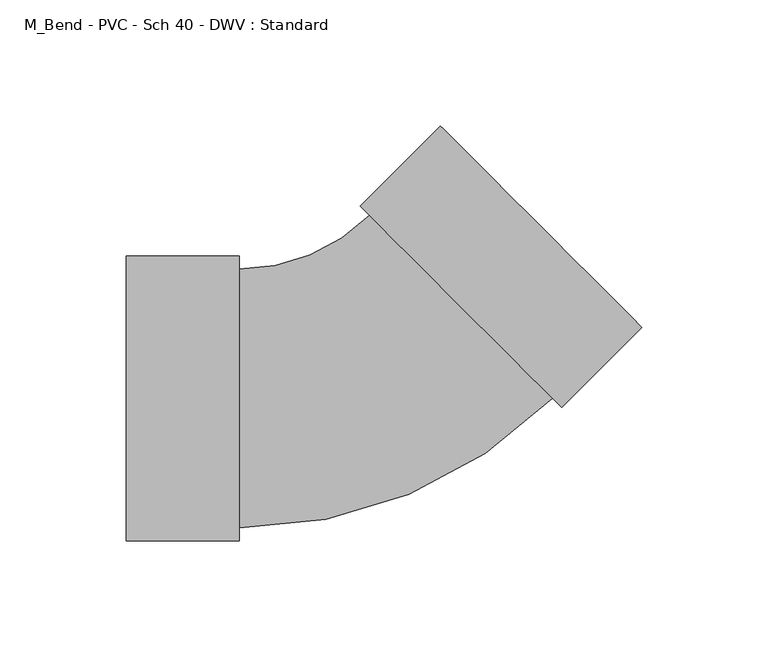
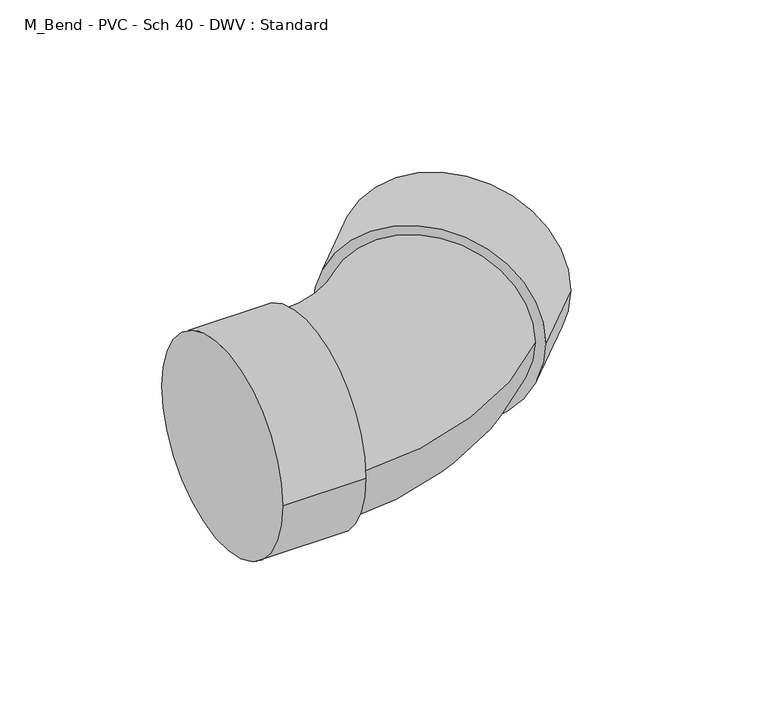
"""IFC4 building model written with IfcOpenShell, lengths in millimetres: pipe fitting geometry, M_Bend - PVC - Sch 40 - DWV : Standard."""

from ifc_helpers import new_model, si_unit, point, frame, origin, place, context, project, spatial, circle_curve, ellipse_curve, trimmed, source, transform, mapped, element, save
from ifc_brep_helpers import plane_surface, cylinder_surface, revolved_surface, advanced_brep


def m_bend_pvc_sch_40_dwv_standard_97688ec5(model_context):
    return source(origin(), model_context, "Body", "AdvancedBrep", [
        advanced_brep(
        [(-96.4921875, -56.5871094, 0.0), (-96.4921875, 56.5871094, 0.0), (-51.4921875, -56.5871094, 0.0), (-51.4921875, 56.5871094, 0.0), (-51.4921875, -51.3640625, 0.0), (-51.4921875, 51.3640625, 0.0), (0.0905981, 72.7303519, 0.0), (72.7303519, 0.0905981, 0.0), (76.4236037, -3.6026538, 0.0), (-3.6026538, 76.4236037, 0.0), (108.2434089, 28.2171513, 0.0), (28.2171513, 108.2434089, 0.0)],
        [
            (0, 1, circle_curve(frame((-96.4921875, 0.0, 0.0), z_axis=(-1.0, 0.0, 0.0), x_axis=(0.0, 1.0, 0.0)), 56.5871094)),
            (1, 0, circle_curve(frame((-96.4921875, 0.0, 0.0), z_axis=(-1.0, 0.0, 0.0), x_axis=(0.0, 1.0, 0.0)), 56.5871094)),
            (2, 3, circle_curve(frame((-51.4921875, 0.0, 0.0), z_axis=(1.0, 0.0, 0.0), x_axis=(0.0, 1.0, 0.0)), 56.5871094)),
            (3, 2, circle_curve(frame((-51.4921875, 0.0, 0.0), z_axis=(1.0, 0.0, 0.0), x_axis=(0.0, 1.0, 0.0)), 56.5871094)),
            (4, 5, circle_curve(frame((-51.4921875, 0.0, 0.0), z_axis=(-1.0, 0.0, 0.0), x_axis=(0.0, 1.0, 0.0)), 51.3640625)),
            (5, 4, circle_curve(frame((-51.4921875, 0.0, 0.0), z_axis=(-1.0, 0.0, 0.0), x_axis=(0.0, 1.0, 0.0)), 51.3640625)),
            (0, 2),
            (3, 1),
            (6, 5, circle_curve(frame((-51.4921875, 124.3131374, 0.0), z_axis=(0.0, 0.0, -1.0), x_axis=(0.0, -1.0, 0.0)), 72.9490749)),
            (4, 7, circle_curve(frame((-51.4921875, 124.3131374, 0.0), z_axis=(0.0, 0.0, 1.0), x_axis=(0.0, -1.0, 0.0)), 175.6771999)),
            (7, 6, circle_curve(frame((36.410475, 36.410475, 0.0), z_axis=(-0.7071067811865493, -0.7071067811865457, 0.0), x_axis=(-0.7071067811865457, 0.7071067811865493, 0.0)), 51.3640625)),
            (6, 7, circle_curve(frame((36.410475, 36.410475, 0.0), z_axis=(-0.7071067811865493, -0.7071067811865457, 0.0), x_axis=(-0.7071067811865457, 0.7071067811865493, 0.0)), 51.3640625)),
            (8, 9, circle_curve(frame((36.410475, 36.410475, 0.0), z_axis=(-0.7071067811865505, -0.7071067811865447, 0.0), x_axis=(-0.7071067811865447, 0.7071067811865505, 0.0)), 56.5871094)),
            (9, 8, circle_curve(frame((36.410475, 36.410475, 0.0), z_axis=(-0.7071067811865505, -0.7071067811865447, 0.0), x_axis=(-0.7071067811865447, 0.7071067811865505, 0.0)), 56.5871094)),
            (10, 11, circle_curve(frame((68.2302801, 68.2302801, 0.0), z_axis=(0.7071067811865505, 0.7071067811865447, 0.0), x_axis=(-0.7071067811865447, 0.7071067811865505, 0.0)), 56.5871094)),
            (11, 10, circle_curve(frame((68.2302801, 68.2302801, 0.0), z_axis=(0.7071067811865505, 0.7071067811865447, 0.0), x_axis=(-0.7071067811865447, 0.7071067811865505, 0.0)), 56.5871094)),
            (8, 10),
            (11, 9),
        ],
        [
            plane_surface(frame((-96.4921875, 0.0, 0.0), z_axis=(-1.0, 0.0, 0.0), x_axis=(0.0, 0.0, 1.0))),
            plane_surface(frame((-51.4921875, 0.0, 0.0), z_axis=(1.0, 0.0, 0.0), x_axis=(0.0, 0.0, 1.0))),
            cylinder_surface(frame((-96.4921875, 0.0, 0.0), z_axis=(-1.0, 0.0, 0.0), x_axis=(0.0, 1.0, 0.0)), 56.5871094),
            revolved_surface(trimmed(ellipse_curve(frame((-51.4921875, 0.0, 0.0), z_axis=(-1.0, 0.0, 0.0), x_axis=(0.0, 1.0, 0.0)), 51.3640625, 51.3640625), [point((-51.4921875, -51.3640625, 0.0))], [point((-51.4921875, 51.3640625, 0.0))], True, "CARTESIAN"), (-51.4921875, 124.3131374, 0.0), (0.0, 0.0, 1.0)),
            revolved_surface(trimmed(ellipse_curve(frame((-51.4921875, 0.0, 0.0), z_axis=(-1.0, 0.0, 0.0), x_axis=(0.0, 1.0, 0.0)), 51.3640625, 51.3640625), [point((-51.4921875, 51.3640625, 0.0))], [point((-51.4921875, -51.3640625, 0.0))], True, "CARTESIAN"), (-51.4921875, 124.3131374, 0.0), (0.0, 0.0, 1.0)),
            plane_surface(frame((36.410475, 36.410475, 0.0), z_axis=(-0.7071067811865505, -0.7071067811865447, 0.0), x_axis=(0.0, 0.0, 1.0))),
            plane_surface(frame((68.2302801, 68.2302801, 0.0), z_axis=(0.7071067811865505, 0.7071067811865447, 0.0), x_axis=(0.0, 0.0, 1.0))),
            cylinder_surface(frame((36.410475, 36.410475, 0.0), z_axis=(-0.7071067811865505, -0.7071067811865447, 0.0), x_axis=(-0.7071067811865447, 0.7071067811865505, 0.0)), 56.5871094),
        ],
        [
            (0, [[1, 2]]),
            (1, [[3, 4], [5, 6]]),
            (2, [[-1, 7, -4, 8]]),
            (2, [[-2, -8, -3, -7]]),
            (3, [[9, -5, 10, 11]]),
            (4, [[-9, 12, -10, -6]]),
            (5, [[13, 14], [-11, -12]]),
            (6, [[15, 16]]),
            (7, [[-13, 17, -16, 18]]),
            (7, [[-14, -18, -15, -17]]),
        ],
    ),
    ])


if __name__ == "__main__":
    model = new_model("IFC4")
    model_context = context("Model", 3, world=origin())
    ifc_project = project(units=[si_unit("LENGTHUNIT", "METRE", prefix="MILLI")], contexts=[model_context])
    site = spatial("IfcSite", under=ifc_project)
    building = spatial("IfcBuilding", under=site)
    placement = place(None, origin())
    m_bend_pvc_sch_40_dwv_standard_shape = m_bend_pvc_sch_40_dwv_standard_97688ec5(model_context)
    element("IfcPipeFitting", 1, ObjectType="M_Bend - PVC - Sch 40 - DWV : Standard", at=placement, inside=building, context=model_context, shape_type="MappedRepresentation", body=[
        mapped(m_bend_pvc_sch_40_dwv_standard_shape, transform((0.0, 0.0, 0.0), x_axis=(1.0, 0.0, 0.0), y_axis=(0.0, 1.0, 0.0), z_axis=(0.0, 0.0, 1.0))),
    ])
    save(model, "model.ifc")
